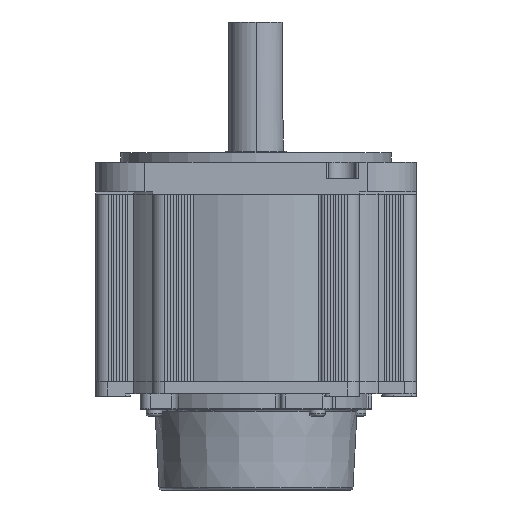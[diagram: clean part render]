
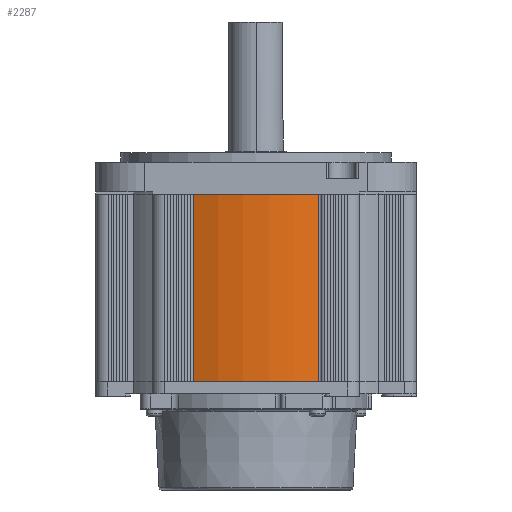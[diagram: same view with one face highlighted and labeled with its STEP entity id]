
A CAD part, front view. The second image highlights one B-rep face of the part: STEP entity #2287.
In plain terms, the highlighted cylindrical face has radius 65 mm (diameter 130 mm), a partial arc.
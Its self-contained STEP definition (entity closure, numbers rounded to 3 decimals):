
#138 = CARTESIAN_POINT ( 'NONE',  ( -25.22, -59.908, 76. ) ) ;
#304 = CIRCLE ( 'NONE', #20645, 65. ) ;
#1251 = CARTESIAN_POINT ( 'NONE',  ( 0., 0., 0. ) ) ;
#2222 = EDGE_CURVE ( 'NONE', #3045, #26649, #7510, .T. ) ;
#2287 = ADVANCED_FACE ( 'NONE', ( #22748 ), #23530, .T. ) ;
#3045 = VERTEX_POINT ( 'NONE', #138 ) ;
#3909 = EDGE_CURVE ( 'NONE', #26649, #11804, #14095, .T. ) ;
#4211 = ORIENTED_EDGE ( 'NONE', *, *, #24094, .F. ) ;
#4303 = AXIS2_PLACEMENT_3D ( 'NONE', #8721, #16144, #11477 ) ;
#6137 = EDGE_LOOP ( 'NONE', ( #17496, #8617, #4211, #17928 ) ) ;
#7510 = LINE ( 'NONE', #22963, #18533 ) ;
#8617 = ORIENTED_EDGE ( 'NONE', *, *, #9822, .F. ) ;
#8721 = CARTESIAN_POINT ( 'NONE',  ( 0., 0., 76. ) ) ;
#9375 = DIRECTION ( 'NONE',  ( 0., 0., 1. ) ) ;
#9554 = VECTOR ( 'NONE', #22312, 1000. ) ;
#9822 = EDGE_CURVE ( 'NONE', #14124, #11804, #22139, .T. ) ;
#11477 = DIRECTION ( 'NONE',  ( -1., 0., 0. ) ) ;
#11804 = VERTEX_POINT ( 'NONE', #14598 ) ;
#14095 = CIRCLE ( 'NONE', #24096, 65. ) ;
#14124 = VERTEX_POINT ( 'NONE', #21977 ) ;
#14481 = CARTESIAN_POINT ( 'NONE',  ( -25.22, -59.908, 0. ) ) ;
#14598 = CARTESIAN_POINT ( 'NONE',  ( 25.22, -59.908, 0. ) ) ;
#15889 = DIRECTION ( 'NONE',  ( 0., 0., -1. ) ) ;
#15902 = DIRECTION ( 'NONE',  ( 1., 0., 0. ) ) ;
#16144 = DIRECTION ( 'NONE',  ( 0., 0., -1. ) ) ;
#16817 = DIRECTION ( 'NONE',  ( 1., 0., 0. ) ) ;
#17496 = ORIENTED_EDGE ( 'NONE', *, *, #3909, .T. ) ;
#17928 = ORIENTED_EDGE ( 'NONE', *, *, #2222, .T. ) ;
#18533 = VECTOR ( 'NONE', #15889, 1000. ) ;
#20645 = AXIS2_PLACEMENT_3D ( 'NONE', #23869, #9375, #16817 ) ;
#21977 = CARTESIAN_POINT ( 'NONE',  ( 25.22, -59.908, 76. ) ) ;
#22139 = LINE ( 'NONE', #29672, #9554 ) ;
#22312 = DIRECTION ( 'NONE',  ( 0., 0., -1. ) ) ;
#22748 = FACE_OUTER_BOUND ( 'NONE', #6137, .T. ) ;
#22963 = CARTESIAN_POINT ( 'NONE',  ( -25.22, -59.908, 76. ) ) ;
#23184 = DIRECTION ( 'NONE',  ( 0., 0., 1. ) ) ;
#23530 = CYLINDRICAL_SURFACE ( 'NONE', #4303, 65. ) ;
#23869 = CARTESIAN_POINT ( 'NONE',  ( 0., 0., 76. ) ) ;
#24094 = EDGE_CURVE ( 'NONE', #3045, #14124, #304, .T. ) ;
#24096 = AXIS2_PLACEMENT_3D ( 'NONE', #1251, #23184, #15902 ) ;
#26649 = VERTEX_POINT ( 'NONE', #14481 ) ;
#29672 = CARTESIAN_POINT ( 'NONE',  ( 25.22, -59.908, 76. ) ) ;
